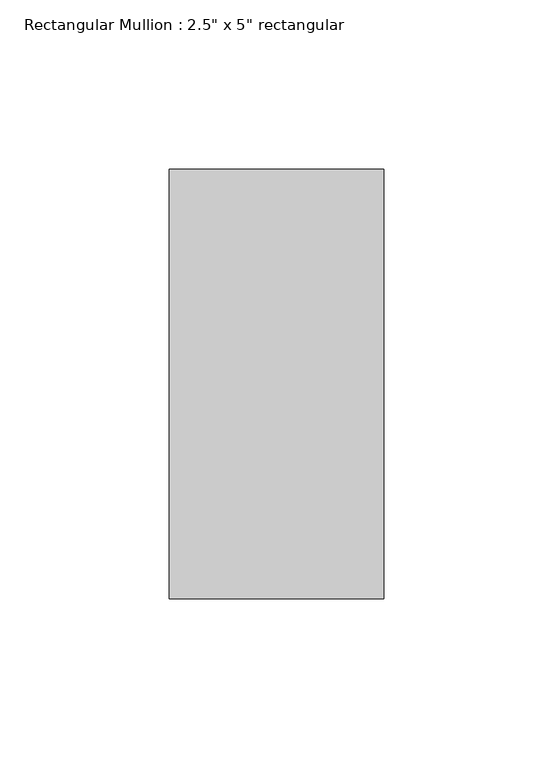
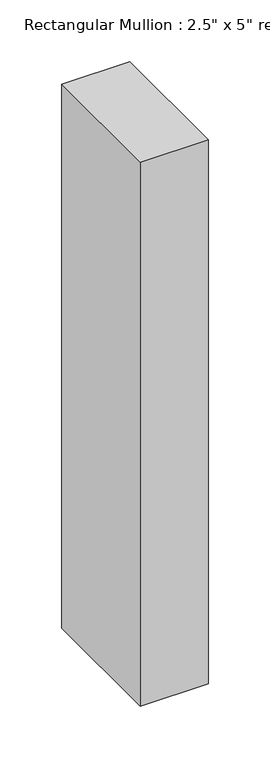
"""IFC4 building model written with IfcOpenShell, lengths in millimetres: member geometry."""

from ifc_helpers import new_model, si_unit, frame, origin, place, context, project, spatial, polyline, outline, extrude, source, transform, mapped, element, save


def member_69d56820(model_context):
    return source(origin(), model_context, "Body", "SweptSolid", [
        extrude(outline(polyline([(0.0, 50.8), (0.0, -76.2), (-63.5, -76.2), (-63.5, 50.8), (0.0, 50.8)])), frame((0.0, 0.0, -537.6333333), z_axis=(0.0, 0.0, 1.0), x_axis=(1.0, 0.0, 0.0)), (0.0, 0.0, 1.0), 537.6333333),
    ])


if __name__ == "__main__":
    model = new_model("IFC4")
    model_context = context("Model", 3, world=origin())
    ifc_project = project(units=[si_unit("LENGTHUNIT", "METRE", prefix="MILLI")], contexts=[model_context])
    site = spatial("IfcSite", under=ifc_project)
    building = spatial("IfcBuilding", under=site)
    placement = place(None, origin())
    member_shape = member_69d56820(model_context)
    element("IfcMember", 1, ObjectType="Rectangular Mullion : 2.5\" x 5\" rectangular", at=placement, inside=building, context=model_context, shape_type="MappedRepresentation", body=[
        mapped(member_shape, transform((0.0, 0.0, 0.0), x_axis=(1.0, 0.0, 0.0), y_axis=(0.0, 1.0, 0.0), z_axis=(0.0, 0.0, 1.0))),
    ])
    save(model, "model.ifc")
